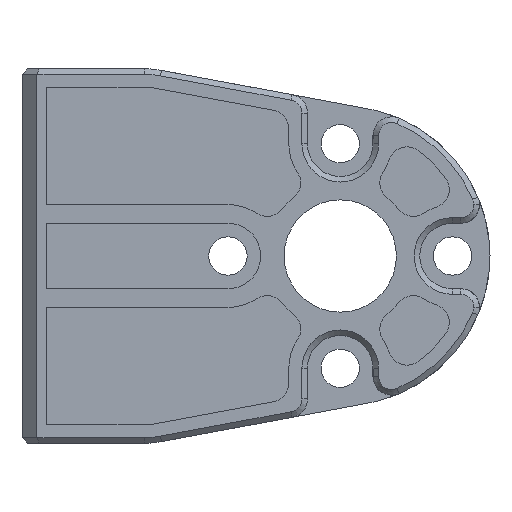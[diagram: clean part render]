
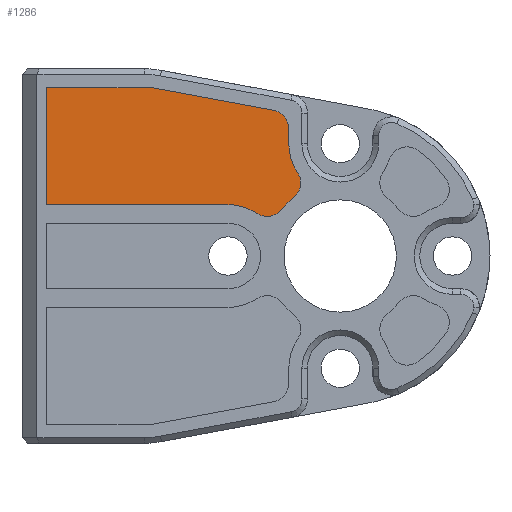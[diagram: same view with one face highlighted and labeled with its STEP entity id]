
A CAD part, left-side view. The second image highlights one B-rep face of the part: STEP entity #1286.
In plain terms, the highlighted planar face has unit normal (-1, 0, 0) as drawn and (0, 0, -1) by its records, which use the part's own axes.
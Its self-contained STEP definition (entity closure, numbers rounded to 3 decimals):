
#334 = VERTEX_POINT ( 'NONE', #16874 ) ;
#849 = CARTESIAN_POINT ( 'NONE',  ( 0., -14., -16. ) ) ;
#867 = ORIENTED_EDGE ( 'NONE', *, *, #7837, .F. ) ;
#943 = ORIENTED_EDGE ( 'NONE', *, *, #14777, .F. ) ;
#1034 = CIRCLE ( 'NONE', #5606, 1. ) ;
#1286 = ADVANCED_FACE ( 'NONE', ( #13594 ), #8024, .F. ) ;
#1301 = ORIENTED_EDGE ( 'NONE', *, *, #7092, .T. ) ;
#1480 = VECTOR ( 'NONE', #18429, 1000. ) ;
#1861 = EDGE_CURVE ( 'NONE', #3023, #20856, #1034, .T. ) ;
#2306 = AXIS2_PLACEMENT_3D ( 'NONE', #18338, #3192, #8248 ) ;
#2366 = AXIS2_PLACEMENT_3D ( 'NONE', #9466, #19863, #11232 ) ;
#2603 = VERTEX_POINT ( 'NONE', #13145 ) ;
#2717 = CARTESIAN_POINT ( 'NONE',  ( -6., -14., -16. ) ) ;
#2862 = ORIENTED_EDGE ( 'NONE', *, *, #10199, .F. ) ;
#2887 = CARTESIAN_POINT ( 'NONE',  ( -9., 1.7, -16. ) ) ;
#3023 = VERTEX_POINT ( 'NONE', #3813 ) ;
#3192 = DIRECTION ( 'NONE',  ( 0., 0., -1. ) ) ;
#3771 = CARTESIAN_POINT ( 'NONE',  ( -2.75, 1.7, -16. ) ) ;
#3813 = CARTESIAN_POINT ( 'NONE',  ( -2.284, -9.532, -16. ) ) ;
#4175 = VERTEX_POINT ( 'NONE', #3771 ) ;
#4357 = CARTESIAN_POINT ( 'NONE',  ( -4.468, -11.716, -16. ) ) ;
#4604 = DIRECTION ( 'NONE',  ( 0., 0., 1. ) ) ;
#4700 = EDGE_CURVE ( 'NONE', #10460, #14090, #18078, .T. ) ;
#5036 = CARTESIAN_POINT ( 'NONE',  ( -2.75, 1.7, -16. ) ) ;
#5107 = LINE ( 'NONE', #8102, #8386 ) ;
#5115 = CARTESIAN_POINT ( 'NONE',  ( -3.115, -10.089, -16. ) ) ;
#5606 = AXIS2_PLACEMENT_3D ( 'NONE', #5115, #18623, #8110 ) ;
#5803 = DIRECTION ( 'NONE',  ( 0., -1., 0. ) ) ;
#6073 = CIRCLE ( 'NONE', #14199, 4. ) ;
#6122 = DIRECTION ( 'NONE',  ( 1., 0., 0. ) ) ;
#6146 = CARTESIAN_POINT ( 'NONE',  ( 0., 0., -16. ) ) ;
#6282 = VERTEX_POINT ( 'NONE', #10352 ) ;
#6905 = LINE ( 'NONE', #5036, #1480 ) ;
#7092 = EDGE_CURVE ( 'NONE', #10460, #15039, #18916, .T. ) ;
#7338 = EDGE_CURVE ( 'NONE', #14090, #14666, #14277, .T. ) ;
#7655 = CIRCLE ( 'NONE', #21100, 2.75 ) ;
#7837 = EDGE_CURVE ( 'NONE', #2603, #4175, #8388, .T. ) ;
#8024 = PLANE ( 'NONE',  #10863 ) ;
#8102 = CARTESIAN_POINT ( 'NONE',  ( -9., -3.908, -16. ) ) ;
#8110 = DIRECTION ( 'NONE',  ( 0.831, 0.557, 0. ) ) ;
#8248 = DIRECTION ( 'NONE',  ( 0., -1., 0. ) ) ;
#8386 = VECTOR ( 'NONE', #15279, 1000. ) ;
#8388 = LINE ( 'NONE', #13585, #9355 ) ;
#8576 = ORIENTED_EDGE ( 'NONE', *, *, #7338, .F. ) ;
#8802 = CARTESIAN_POINT ( 'NONE',  ( -9., 1.7, -16. ) ) ;
#8931 = DIRECTION ( 'NONE',  ( 1., 0., 0. ) ) ;
#9274 = EDGE_LOOP ( 'NONE', ( #867, #9815, #14467, #21785, #13276, #8576, #11949, #1301, #2862, #943, #14348 ) ) ;
#9322 = VERTEX_POINT ( 'NONE', #2887 ) ;
#9355 = VECTOR ( 'NONE', #15361, 1000. ) ;
#9466 = CARTESIAN_POINT ( 'NONE',  ( -3.911, -10.885, -16. ) ) ;
#9710 = DIRECTION ( 'NONE',  ( 0., 0., -1. ) ) ;
#9758 = EDGE_CURVE ( 'NONE', #334, #14666, #10134, .T. ) ;
#9815 = ORIENTED_EDGE ( 'NONE', *, *, #19935, .F. ) ;
#10134 = CIRCLE ( 'NONE', #2366, 1. ) ;
#10199 = EDGE_CURVE ( 'NONE', #6282, #15039, #5107, .T. ) ;
#10352 = CARTESIAN_POINT ( 'NONE',  ( -9., -3.908, -16. ) ) ;
#10460 = VERTEX_POINT ( 'NONE', #19048 ) ;
#10787 = LINE ( 'NONE', #8802, #12432 ) ;
#10863 = AXIS2_PLACEMENT_3D ( 'NONE', #6146, #4604, #8931 ) ;
#10904 = DIRECTION ( 'NONE',  ( 0., 1., 0. ) ) ;
#11232 = DIRECTION ( 'NONE',  ( 0.782, -0.623, 0. ) ) ;
#11604 = DIRECTION ( 'NONE',  ( -0.831, -0.557, 0. ) ) ;
#11822 = CARTESIAN_POINT ( 'NONE',  ( -6., -11.25, -16. ) ) ;
#11949 = ORIENTED_EDGE ( 'NONE', *, *, #4700, .F. ) ;
#12432 = VECTOR ( 'NONE', #5803, 1000. ) ;
#13145 = CARTESIAN_POINT ( 'NONE',  ( -2.75, -8., -16. ) ) ;
#13276 = ORIENTED_EDGE ( 'NONE', *, *, #9758, .T. ) ;
#13441 = CARTESIAN_POINT ( 'NONE',  ( -7.785, -10.433, -16. ) ) ;
#13585 = CARTESIAN_POINT ( 'NONE',  ( -2.75, -8., -16. ) ) ;
#13594 = FACE_OUTER_BOUND ( 'NONE', #9274, .T. ) ;
#14090 = VERTEX_POINT ( 'NONE', #11822 ) ;
#14199 = AXIS2_PLACEMENT_3D ( 'NONE', #849, #17763, #14213 ) ;
#14213 = DIRECTION ( 'NONE',  ( -0.623, 0.782, 0. ) ) ;
#14277 = CIRCLE ( 'NONE', #16059, 2.75 ) ;
#14280 = EDGE_CURVE ( 'NONE', #4175, #9322, #6905, .T. ) ;
#14348 = ORIENTED_EDGE ( 'NONE', *, *, #14280, .F. ) ;
#14467 = ORIENTED_EDGE ( 'NONE', *, *, #1861, .T. ) ;
#14666 = VERTEX_POINT ( 'NONE', #4357 ) ;
#14764 = EDGE_CURVE ( 'NONE', #20856, #334, #6073, .T. ) ;
#14777 = EDGE_CURVE ( 'NONE', #9322, #6282, #10787, .T. ) ;
#15039 = VERTEX_POINT ( 'NONE', #13441 ) ;
#15086 = CARTESIAN_POINT ( 'NONE',  ( -2.492, -10.871, -16. ) ) ;
#15279 = DIRECTION ( 'NONE',  ( 0.183, -0.983, 0. ) ) ;
#15361 = DIRECTION ( 'NONE',  ( 0., 1., 0. ) ) ;
#16059 = AXIS2_PLACEMENT_3D ( 'NONE', #2717, #17865, #10904 ) ;
#16874 = CARTESIAN_POINT ( 'NONE',  ( -3.129, -11.508, -16. ) ) ;
#17763 = DIRECTION ( 'NONE',  ( 0., 0., 1. ) ) ;
#17783 = VECTOR ( 'NONE', #6122, 1000. ) ;
#17858 = CARTESIAN_POINT ( 'NONE',  ( -6.802, -11.25, -16. ) ) ;
#17865 = DIRECTION ( 'NONE',  ( 0., 0., -1. ) ) ;
#18078 = LINE ( 'NONE', #17858, #17783 ) ;
#18239 = CARTESIAN_POINT ( 'NONE',  ( 0., -8., -16. ) ) ;
#18338 = CARTESIAN_POINT ( 'NONE',  ( -6.802, -10.25, -16. ) ) ;
#18429 = DIRECTION ( 'NONE',  ( -1., 0., 0. ) ) ;
#18623 = DIRECTION ( 'NONE',  ( 0., 0., -1. ) ) ;
#18916 = CIRCLE ( 'NONE', #2306, 1. ) ;
#19048 = CARTESIAN_POINT ( 'NONE',  ( -6.802, -11.25, -16. ) ) ;
#19863 = DIRECTION ( 'NONE',  ( 0., 0., -1. ) ) ;
#19935 = EDGE_CURVE ( 'NONE', #3023, #2603, #7655, .T. ) ;
#20856 = VERTEX_POINT ( 'NONE', #15086 ) ;
#21100 = AXIS2_PLACEMENT_3D ( 'NONE', #18239, #9710, #11604 ) ;
#21785 = ORIENTED_EDGE ( 'NONE', *, *, #14764, .T. ) ;
